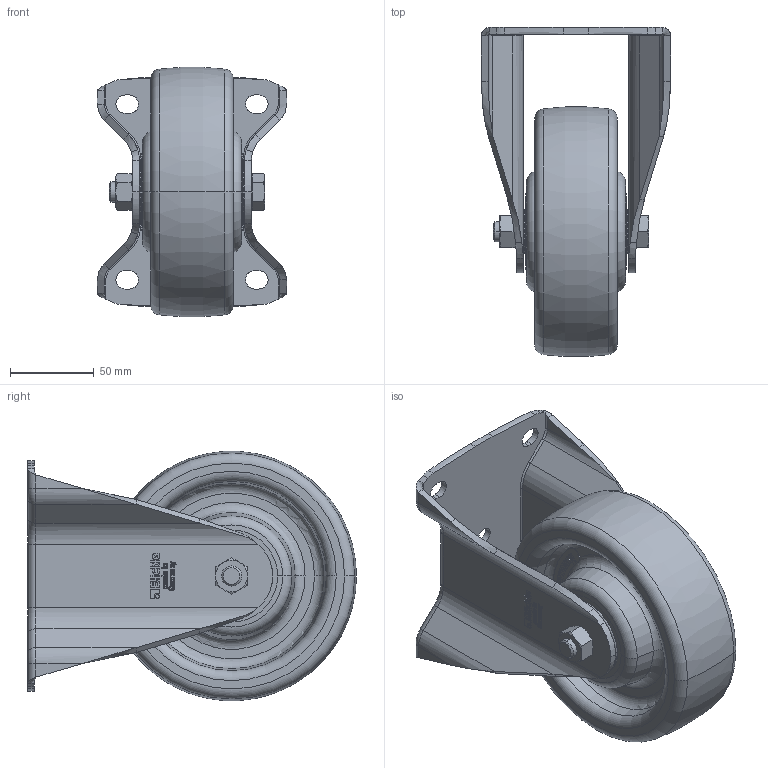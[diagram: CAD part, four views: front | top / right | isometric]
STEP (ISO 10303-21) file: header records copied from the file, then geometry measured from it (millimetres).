
FILE_DESCRIPTION (( 'STEP AP214' ), '1' );
FILE_NAME ('BH-SPO_150K_007112-214.step', '2021-11-30T14:50:42', ( '' ), ( '' ), 'SwSTEP 2.0', 'SolidWorks 2018', '' );
FILE_SCHEMA (( 'AUTOMOTIVE_DESIGN' ));
Length unit declared in the file: millimetre
Products named in the file (5): SPO_3D_G16_SPO_150_20K_006957; SPO_150_20K_G16_3D; GH-BH_150-250_GH-BH-160x60-03_20x60; GH-BH-160x60-03_20x60_G16_3D; BH-SPO_150K_007112-214
Assembly tree (4 placements, depth 3):
  BH-SPO_150K_007112-214
    GH-BH_150-250_GH-BH-160x60-03_20x60
      GH-BH-160x60-03_20x60_G16_3D
    SPO_3D_G16_SPO_150_20K_006957
      SPO_150_20K_G16_3D
Bounding box: 113 x 196.61 x 148.92 mm (x, y, z)
Volume: 809531.8 mm3; surface area: 176759.7 mm2
Topology: 2 solids, 5 shells, 1707 faces, 4468 edges, 2909 vertices
Faces by surface type: plane 812, bspline 640, torus 108, cylinder 100, cone 47
Entity records: 60226 total; most frequent: CARTESIAN_POINT 21158, ORIENTED_EDGE 8936, DIRECTION 5748, EDGE_CURVE 4468, VERTEX_POINT 2909, VECTOR 2686, LINE 2686, EDGE_LOOP 1865
